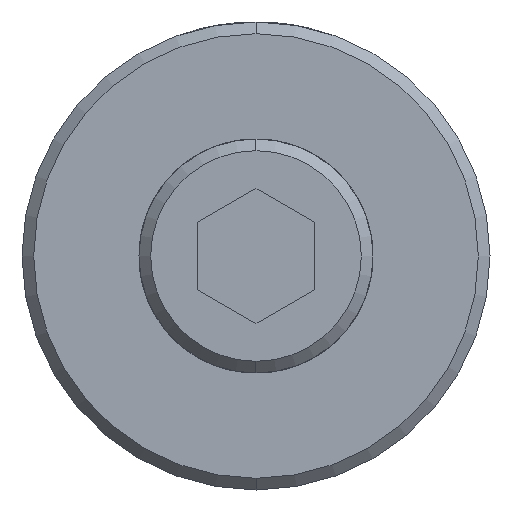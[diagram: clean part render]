
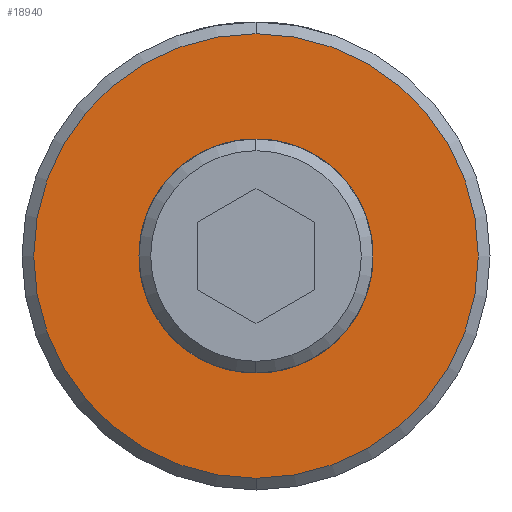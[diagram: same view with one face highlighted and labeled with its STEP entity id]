
A CAD part, left-side view. The second image highlights one B-rep face of the part: STEP entity #18940.
In plain terms, the highlighted planar face has unit normal (-1, 0, 0) as drawn and (0, 0, 1) by its records, which use the part's own axes.
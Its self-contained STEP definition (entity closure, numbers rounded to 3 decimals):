
#14099=CARTESIAN_POINT('',(0.,0.,0.));
#14100=DIRECTION('',(0.,0.,-1.));
#14101=DIRECTION('',(-1.,0.,0.));
#14102=AXIS2_PLACEMENT_3D('',#14099,#14100,#14101);
#14104=CARTESIAN_POINT('',(0.,0.,0.));
#14105=DIRECTION('',(0.,0.,-1.));
#14106=DIRECTION('',(1.,0.,0.));
#14107=AXIS2_PLACEMENT_3D('',#14104,#14105,#14106);
#14109=CARTESIAN_POINT('',(-0.998,-2.562,0.));
#14110=CARTESIAN_POINT('',(-1.332,-2.451,0.));
#14111=CARTESIAN_POINT('',(-1.91,-2.126,0.));
#14112=CARTESIAN_POINT('',(-2.57,-1.358,0.));
#14113=CARTESIAN_POINT('',(-2.906,-0.45,0.));
#14114=CARTESIAN_POINT('',(-2.943,0.39,0.));
#14115=CARTESIAN_POINT('',(-2.778,1.125,0.));
#14116=CARTESIAN_POINT('',(-2.574,1.538,0.));
#14117=CARTESIAN_POINT('',(-2.451,1.73,0.));
#14119=CARTESIAN_POINT('',(0.,0.,0.));
#14120=DIRECTION('',(0.,0.,-1.));
#14121=DIRECTION('',(0.882,-0.472,0.));
#14122=AXIS2_PLACEMENT_3D('',#14119,#14120,#14121);
#14124=CARTESIAN_POINT('',(0.737,2.908,0.));
#14125=CARTESIAN_POINT('',(0.915,2.854,0.));
#14126=CARTESIAN_POINT('',(1.254,2.716,0.));
#14127=CARTESIAN_POINT('',(1.722,2.415,0.));
#14128=CARTESIAN_POINT('',(2.13,2.027,0.));
#14129=CARTESIAN_POINT('',(2.463,1.56,0.));
#14130=CARTESIAN_POINT('',(2.707,1.008,0.));
#14131=CARTESIAN_POINT('',(2.832,0.397,0.));
#14132=CARTESIAN_POINT('',(2.82,-0.213,0.));
#14133=CARTESIAN_POINT('',(2.688,-0.78,0.));
#14134=CARTESIAN_POINT('',(2.525,-1.13,0.));
#14135=CARTESIAN_POINT('',(2.425,-1.297,0.));
#14137=CARTESIAN_POINT('',(-2.451,1.73,0.));
#14138=CARTESIAN_POINT('',(-2.275,1.979,0.));
#14139=CARTESIAN_POINT('',(-1.867,2.405,0.));
#14140=CARTESIAN_POINT('',(-1.051,2.861,0.));
#14141=CARTESIAN_POINT('',(-0.153,3.04,0.));
#14142=CARTESIAN_POINT('',(0.439,2.984,0.));
#14143=CARTESIAN_POINT('',(0.737,2.908,0.));
#18611=CARTESIAN_POINT('',(-5.7,0.,0.));
#18612=CARTESIAN_POINT('',(5.7,0.,0.));
#18613=VERTEX_POINT('',#18611);
#18614=VERTEX_POINT('',#18612);
#18651=VERTEX_POINT('',#14109);
#18652=VERTEX_POINT('',#14117);
#18653=VERTEX_POINT('',#14143);
#18654=VERTEX_POINT('',#14135);
#18919=CARTESIAN_POINT('',(0.,0.,0.));
#18920=DIRECTION('',(0.,0.,1.));
#18921=DIRECTION('',(-1.,0.,0.));
#18922=AXIS2_PLACEMENT_3D('',#18919,#18920,#18921);
#18923=PLANE('',#18922);
#18925=ORIENTED_EDGE('',*,*,#18924,.T.);
#18927=ORIENTED_EDGE('',*,*,#18926,.T.);
#18928=EDGE_LOOP('',(#18925,#18927));
#18929=FACE_OUTER_BOUND('',#18928,.F.);
#18931=ORIENTED_EDGE('',*,*,#18930,.F.);
#18933=ORIENTED_EDGE('',*,*,#18932,.F.);
#18935=ORIENTED_EDGE('',*,*,#18934,.F.);
#18937=ORIENTED_EDGE('',*,*,#18936,.F.);
#18938=EDGE_LOOP('',(#18931,#18933,#18935,#18937));
#18939=FACE_BOUND('',#18938,.F.);
#18940=ADVANCED_FACE('',(#18929,#18939),#18923,.T.);
#14103=CIRCLE('',#14102,5.7);
#14108=CIRCLE('',#14107,5.7);
#14118=B_SPLINE_CURVE_WITH_KNOTS('',3,(#14109,#14110,#14111,#14112,#14113,
#14114,#14115,#14116,#14117),.UNSPECIFIED.,.F.,.F.,(4,1,1,1,1,1,4),(0.,
0.167,0.333,0.5,0.667,0.833,
1.),.UNSPECIFIED.);
#14123=CIRCLE('',#14122,2.75);
#14136=B_SPLINE_CURVE_WITH_KNOTS('',3,(#14124,#14125,#14126,#14127,#14128,
#14129,#14130,#14131,#14132,#14133,#14134,#14135),.UNSPECIFIED.,.F.,.F.,(4,1,1,
1,1,1,1,1,1,4),(0.,0.111,0.222,0.333,
0.444,0.556,0.667,0.778,
0.889,1.),.UNSPECIFIED.);
#14144=B_SPLINE_CURVE_WITH_KNOTS('',3,(#14137,#14138,#14139,#14140,#14141,
#14142,#14143),.UNSPECIFIED.,.F.,.F.,(4,1,1,1,4),(0.,0.25,0.5,0.75,
1.),.UNSPECIFIED.);
#18924=EDGE_CURVE('',#18613,#18614,#14103,.T.);
#18926=EDGE_CURVE('',#18614,#18613,#14108,.T.);
#18930=EDGE_CURVE('',#18651,#18652,#14118,.T.);
#18932=EDGE_CURVE('',#18654,#18651,#14123,.T.);
#18934=EDGE_CURVE('',#18653,#18654,#14136,.T.);
#18936=EDGE_CURVE('',#18652,#18653,#14144,.T.);
